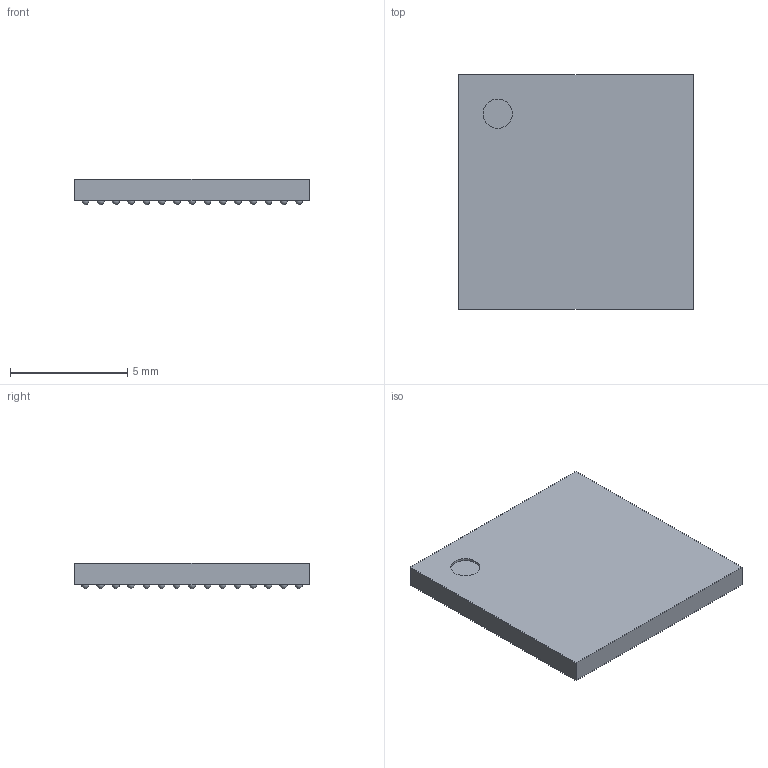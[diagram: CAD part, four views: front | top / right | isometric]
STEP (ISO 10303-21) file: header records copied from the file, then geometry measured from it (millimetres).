
FILE_DESCRIPTION(('Open CASCADE Model'),'2;1');
FILE_NAME('Open CASCADE Shape Model','2026-03-27T15:58:30',('Author'),( 'Open CASCADE'),'Open CASCADE STEP processor 7.5','Open CASCADE 7.5' ,'Unknown');
FILE_SCHEMA(('AUTOMOTIVE_DESIGN { 1 0 10303 214 1 1 1 1 }'));
Length unit declared in the file: millimetre
Products named in the file (7): PCB; Designator1; 7238884080; Open CASCADE STEP translator 7.5 30.1; Body; Open CASCADE STEP translator 7.5 30.2.1; ball
Assembly tree (205 placements, depth 4):
  PCB
  Designator1
    7238884080
      Open CASCADE STEP translator 7.5 30.1
      Body
        Open CASCADE STEP translator 7.5 30.2.1
      ball  x201
Bounding box: 10 x 10 x 1.08 mm (x, y, z)
Volume: 95.1 mm3; surface area: 299.1 mm2
Topology: 202 solids, 203 shells, 210 faces, 619 edges, 413 vertices
Faces by surface type: sphere 201, plane 8, cylinder 1
Full cylindrical faces by diameter (mm): 1.25 x1
Entity records: 1975 total; most frequent: DIRECTION 451, CARTESIAN_POINT 244, AXIS2_PLACEMENT_3D 219, PRODUCT_DEFINITION_SHAPE 212, CONTEXT_DEPENDENT_SHAPE_REPRESENTATION 205, ITEM_DEFINED_TRANSFORMATION 205, NEXT_ASSEMBLY_USAGE_OCCURRENCE 205, ORIENTED_EDGE 31
